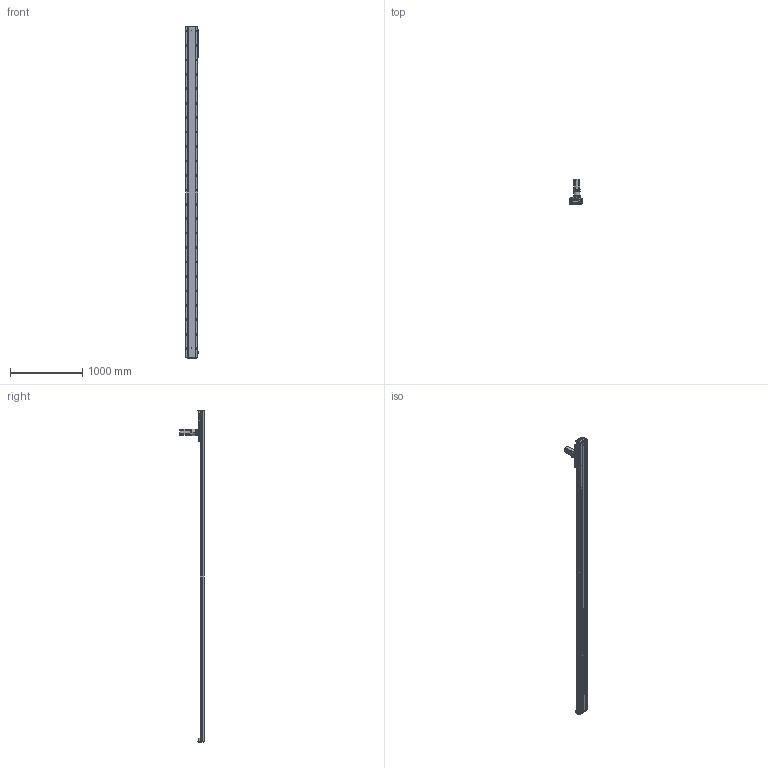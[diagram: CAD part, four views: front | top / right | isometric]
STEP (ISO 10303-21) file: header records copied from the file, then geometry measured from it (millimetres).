
FILE_DESCRIPTION (( 'STEP AP203' ), '1' );
FILE_NAME ('RY170-C-1000-UK.SLDASM_4100.step', '2021-03-03T00:49:58', ( '盈信电脑' ), ( '东莞市道滘镇水果街19号' ), 'SwSTEP 2.0', 'SolidWorks 2012', '' );
FILE_SCHEMA (( 'CONFIG_CONTROL_DESIGN' ));
Length unit declared in the file: millimetre
Products named in the file (13): RY170-C-1000-UK.SLDASM_4100; RY170-喘沭賑輸; 左旋斜齿齿轮_M2_22齿_内孔20; TF080等撰; RY170-喘沭滅袉蝶輸; 怢湛750W萇儂ㄗ80遺ㄘ; RY170綴裔啣ㄗ蜊秶ㄘ; 覜茼ん672; RY170-喘謫萇儂覃誹啣; RY170外置感应片(200共用）; 絳寢賑輸EGH20CA; RY170-1000齿条模组型材底座_4100; RY170-1000-喘沭耀郪絳寢EGH20CA_4100
Assembly tree (22 placements, depth 2):
  RY170-C-1000-UK.SLDASM_4100
    RY170-1000齿条模组型材底座_4100
    絳寢賑輸EGH20CA  x6
    RY170-1000-喘沭耀郪絳寢EGH20CA_4100  x2
    RY170綴裔啣ㄗ蜊秶ㄘ  x2
    覜茼ん672  x3
    RY170外置感应片(200共用）
    RY170-喘謫萇儂覃誹啣
    怢湛750W萇儂ㄗ80遺ㄘ
    RY170-喘沭滅袉蝶輸  x2
    TF080等撰
    左旋斜齿齿轮_M2_22齿_内孔20
    RY170-喘沭賑輸
Bounding box: 188.7 x 343.5 x 4600 mm (x, y, z)
Volume: 21895227.3 mm3; surface area: 5771005.4 mm2
Topology: 24 solids, 24 shells, 5473 faces, 15732 edges, 9979 vertices
Faces by surface type: plane 2463, cylinder 2454, cone 502, bspline 50, torus 4
Entity records: 130848 total; most frequent: CARTESIAN_POINT 32949, ORIENTED_EDGE 20750, DIRECTION 19780, EDGE_CURVE 10375, AXIS2_PLACEMENT_3D 7447, VERTEX_POINT 6739, VECTOR 4886, LINE 4886
